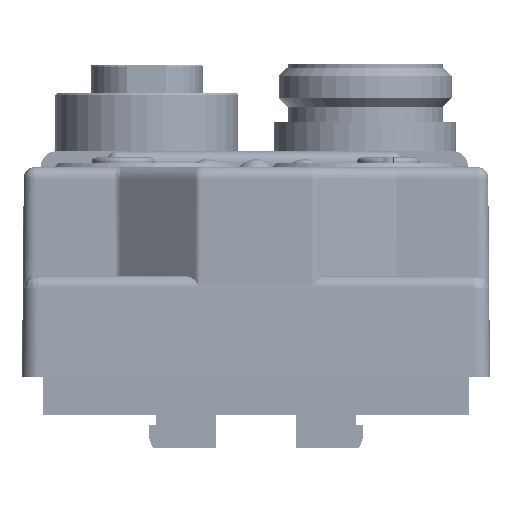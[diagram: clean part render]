
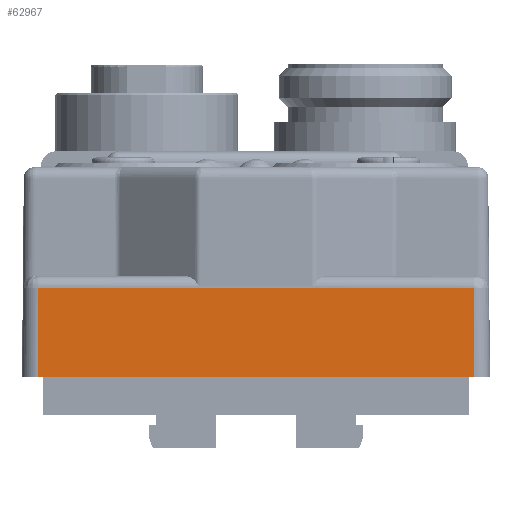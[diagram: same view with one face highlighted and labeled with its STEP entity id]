
A CAD part, left-side view. The second image highlights one B-rep face of the part: STEP entity #62967.
In plain terms, the highlighted planar face has unit normal (-1, 0, 0.009).
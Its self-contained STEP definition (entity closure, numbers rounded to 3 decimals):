
#14383 = FACE_OUTER_BOUND ( 'NONE', #35298, .T. ) ;
#27548 = VERTEX_POINT ( 'NONE', #109263 ) ;
#27568 = VERTEX_POINT ( 'NONE', #109276 ) ;
#28737 = CARTESIAN_POINT ( 'NONE',  ( -110.152, 9.219, -10.044 ) ) ;
#28748 = PLANE ( 'NONE',  #154518 ) ;
#28758 = DIRECTION ( 'NONE',  ( 1., 0., -0.009 ) ) ;
#28761 = DIRECTION ( 'NONE',  ( -0.009, 0., -1. ) ) ;
#35298 = EDGE_LOOP ( 'NONE', ( #72519, #72524, #72532, #72541 ) ) ;
#36603 = CARTESIAN_POINT ( 'NONE',  ( -110.165, -18.681, -11.531 ) ) ;
#41731 = EDGE_CURVE ( 'NONE', #27548, #27568, #128035, .T. ) ;
#56546 = EDGE_CURVE ( 'NONE', #145729, #77707, #137267, .T. ) ;
#56569 = EDGE_CURVE ( 'NONE', #77707, #27548, #137301, .T. ) ;
#56572 = EDGE_CURVE ( 'NONE', #27568, #145729, #137307, .T. ) ;
#62967 = ADVANCED_FACE ( 'NONE', ( #14383 ), #28748, .F. ) ;
#72519 = ORIENTED_EDGE ( 'NONE', *, *, #56546, .F. ) ;
#72524 = ORIENTED_EDGE ( 'NONE', *, *, #56572, .F. ) ;
#72532 = ORIENTED_EDGE ( 'NONE', *, *, #41731, .F. ) ;
#72541 = ORIENTED_EDGE ( 'NONE', *, *, #56569, .F. ) ;
#77707 = VERTEX_POINT ( 'NONE', #36603 ) ;
#109263 = CARTESIAN_POINT ( 'NONE',  ( -110.266, -18.782, -23.044 ) ) ;
#109276 = CARTESIAN_POINT ( 'NONE',  ( -110.266, 37.219, -23.044 ) ) ;
#128035 = LINE ( 'NONE', #130153, #128038 ) ;
#128038 = VECTOR ( 'NONE', #130156, 1000. ) ;
#130153 = CARTESIAN_POINT ( 'NONE',  ( -110.266, -18.581, -23.044 ) ) ;
#130156 = DIRECTION ( 'NONE',  ( 0., 1., 0. ) ) ;
#137267 = LINE ( 'NONE', #139173, #137270 ) ;
#137270 = VECTOR ( 'NONE', #139175, 1000. ) ;
#137301 = LINE ( 'NONE', #139311, #137304 ) ;
#137304 = VECTOR ( 'NONE', #139314, 1000. ) ;
#137307 = LINE ( 'NONE', #139325, #137310 ) ;
#137310 = VECTOR ( 'NONE', #139328, 1000. ) ;
#139173 = CARTESIAN_POINT ( 'NONE',  ( -110.165, 24.205, -11.531 ) ) ;
#139175 = DIRECTION ( 'NONE',  ( 0., -1., 0. ) ) ;
#139311 = CARTESIAN_POINT ( 'NONE',  ( -110.208, -18.723, -16.382 ) ) ;
#139314 = DIRECTION ( 'NONE',  ( -0.009, -0.009, -1. ) ) ;
#139325 = CARTESIAN_POINT ( 'NONE',  ( -110.09, 37.043, -2.883 ) ) ;
#139328 = DIRECTION ( 'NONE',  ( 0.009, -0.009, 1. ) ) ;
#145729 = VERTEX_POINT ( 'NONE', #146630 ) ;
#146630 = CARTESIAN_POINT ( 'NONE',  ( -110.165, 37.118, -11.531 ) ) ;
#154518 = AXIS2_PLACEMENT_3D ( 'NONE', #28737, #28758, #28761 ) ;
